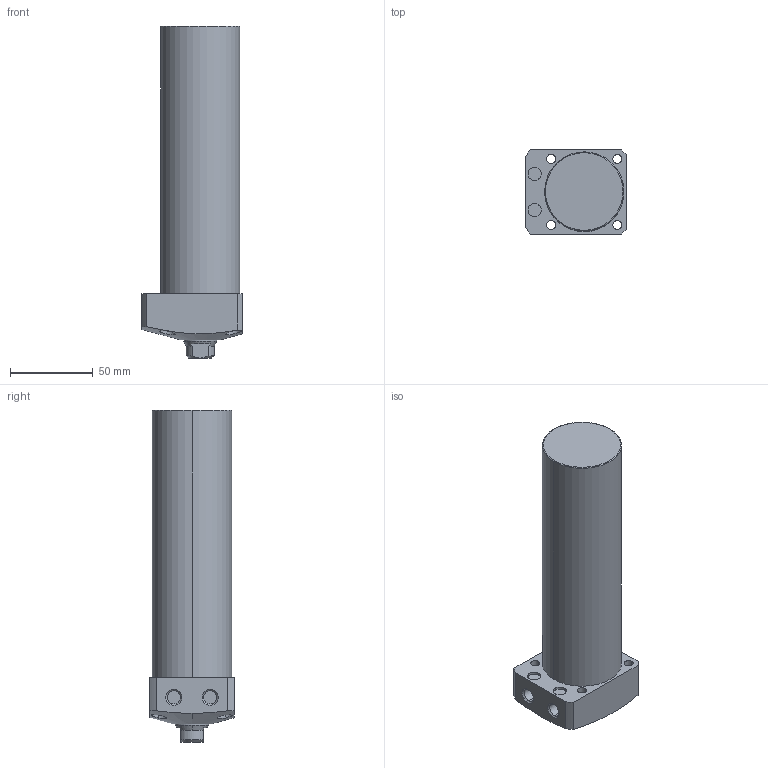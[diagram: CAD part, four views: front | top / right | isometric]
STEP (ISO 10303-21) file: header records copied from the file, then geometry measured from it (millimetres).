
FILE_DESCRIPTION (( 'STEP AP203' ), '1' );
FILE_NAME ('CLL-048CA-135.STEP', '2019-12-21T07:27:24', ( '' ), ( '' ), 'SwSTEP 2.0', 'SolidWorks 2015', '' );
FILE_SCHEMA (( 'CONFIG_CONTROL_DESIGN' ));
Length unit declared in the file: millimetre
Products named in the file (1): CLL-048CA-135
Bounding box: 61 x 51 x 201 mm (x, y, z)
Volume: 367348.7 mm3; surface area: 39205.4 mm2
Topology: 1 solids, 1 shells, 74 faces, 170 edges, 107 vertices
Faces by surface type: cylinder 35, plane 22, cone 15, torus 2
Entity records: 2535 total; most frequent: CARTESIAN_POINT 748, DIRECTION 374, ORIENTED_EDGE 336, EDGE_CURVE 168, AXIS2_PLACEMENT_3D 155, VERTEX_POINT 107, EDGE_LOOP 93, CIRCLE 80
